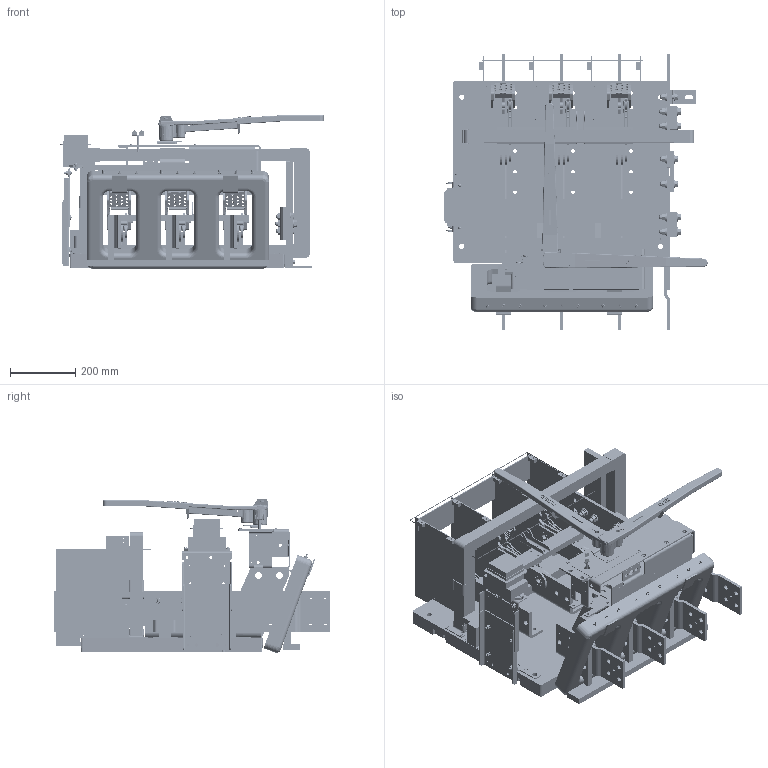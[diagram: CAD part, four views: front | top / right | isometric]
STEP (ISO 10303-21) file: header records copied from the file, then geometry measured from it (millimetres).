
FILE_DESCRIPTION(/* description */ (''),/* implementation_level */ '2;1');
FILE_NAME(/* name */ 'H:\switches\3d-templates\catalog-switches-iges-files\CATALOG-VL369AG60.stp',/* time_stamp */ '2022-03-23T14:05:20-05:00',/* author */ ('MKingston'),/* organization */ (''),/* preprocessor_version */ 'ST-DEVELOPER v18.1',/* originating_system */ 'Autodesk Inventor 2022',/* authorisation */ '');
FILE_SCHEMA (('AUTOMOTIVE_DESIGN { 1 0 10303 214 3 1 1 }'));
Products named in the file (91): vl369; 277; 668-D; 668-C; 668-E; catalog-56-qj-arcchute-assy; 363-da; 363-da_MIR; 50-QLX; 50-QRX; 56-QJS; 57-QJSB; 57-QJST; catalog-vl369-blade-assy; 67-AL; 67-AR; 67-fc3; 67-gc3; 67-M; 67-j; ANSI/ASME B18.7 - T 0.252 x 17/32; ANSI/ASME B18.7 - T 0.188 x 17/32; 235-b; 230-a; 246-a; 255-z; 67-ZBA; 255-bha; 255-c; 178-c; gfi-ring-assembly; GFS10X24; 277-ma; gfr-1-mounting-assembly; 277-L1T; 277-l2; 277-l3; 277-l4; gfr-1; Bolted Connection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
Assembly tree (218 placements, depth 4):
  vl369
    277
    668-D  x3
    668-C  x3
    668-E  x3
    catalog-56-qj-arcchute-assy  x3
      363-da
      363-da_MIR
      50-QLX
      50-QRX
      56-QJS
      57-QJSB
      57-QJST
    catalog-vl369-blade-assy  x3
      67-AL
      67-AR
      67-fc3
      67-gc3
      67-j
      67-M
      ANSI/ASME B18.7 - T 0.252 x 17/32
      ANSI/ASME B18.7 - T 0.188 x 17/32
    235-b
    230-a
    255-bha  x4
    246-a  x2
    255-z
    67-ZBA  x3
    255-c
    178-c  x8
    gfi-ring-assembly
      GFS10X24
      277-ma
    gfr-1-mounting-assembly
      277-L1T
      277-l2
      277-l3
      277-l4
      gfr-1
      Bolted Connection
        ANSI B18.22.1 - No. 10 - Type A  x4
        ASME B18.21.1 - No. 10. Carbon Steel, ETLWTB(1)  x4
        ANSI B18.6.3 - 10 - 32 x 7/8 SR HMS  x2
        ANSI B18.2.2 - 10 - 32, HMSNI  x2
      Bolted Connection_1
        ANSI B18.5 - 1/4-20 UNC - 0.75, RHBI  x6
        ASTM F436 - 1/4, CW  x6
        ASME B18.21.1 - 1/4. Carbon Steel, HITLWTB(1)  x6
        ANSI B18.2.2 - 1/4 - 20, HNI  x6
    transformer
    800-bck2
    800-fck-1
    221-kpa
    452
    481-a
    1600-VL-NEUTRAL
      675-a
      675-ba
      675-df  x2
      676-l  x2
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Bounding box: 807.14 x 848.78 x 471.19 mm (x, y, z)
Volume: 28199467.8 mm3; surface area: 5535193.2 mm2
Topology: 274 solids, 275 shells, 7494 faces, 18776 edges, 12182 vertices
Faces by surface type: plane 3847, cylinder 2200, cone 809, bspline 457, torus 161, sphere 20
Full cylindrical faces by diameter (mm): 1.702 x8, 3.175 x4, 3.302 x2, 3.581 x2, 3.683 x8, 3.759 x12, 3.81 x9, 3.962 x11, 4.089 x4, 4.191 x9, 4.293 x9, 4.305 x42, 4.366 x2, 4.496 x24, 4.572 x9, 4.653 x4, 4.762 x4, 4.775 x11, 4.801 x8, 4.826 x2, 4.902 x14, 4.915 x24, 4.953 x4, 4.978 x9, 5.462 x4, 5.537 x3, 5.556 x5, 5.563 x4, 5.791 x6, 6.35 x50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
Entity records: 129534 total; most frequent: CARTESIAN_POINT 32216, DIRECTION 19432, ORIENTED_EDGE 19214, EDGE_CURVE 9615, AXIS2_PLACEMENT_3D 6787, VERTEX_POINT 6225, LINE 5858, VECTOR 5858
